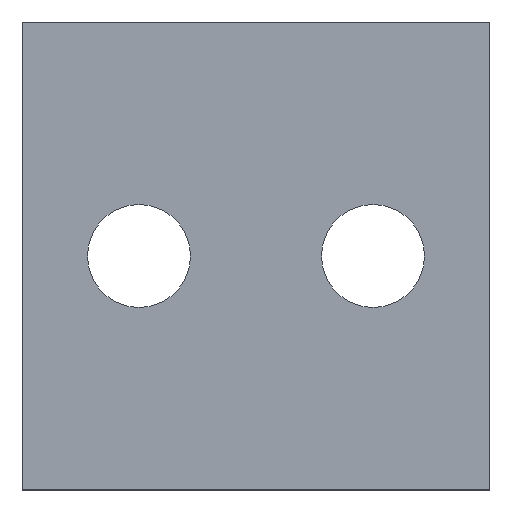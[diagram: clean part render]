
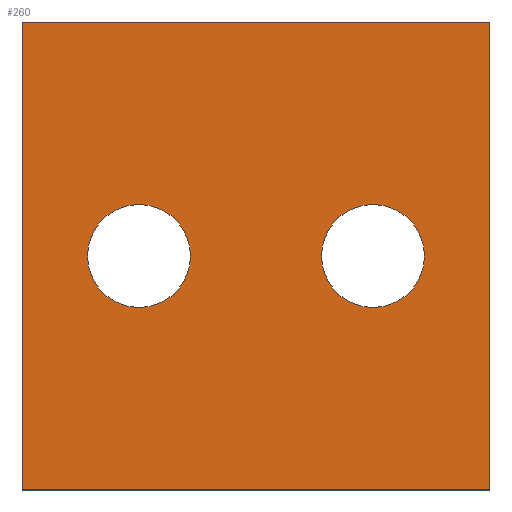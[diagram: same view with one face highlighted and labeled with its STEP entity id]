
A CAD part, top view. The second image highlights one B-rep face of the part: STEP entity #260.
In plain terms, the highlighted planar face has unit normal (0, 0, 1).
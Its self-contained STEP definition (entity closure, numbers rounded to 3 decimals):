
#30 = EDGE_LOOP ( 'NONE', ( #301, #314 ) ) ;
#31 = EDGE_LOOP ( 'NONE', ( #317, #322 ) ) ;
#34 = EDGE_LOOP ( 'NONE', ( #323, #306, #315, #316 ) ) ;
#79 = FACE_OUTER_BOUND ( 'NONE', #34, .T. ) ;
#82 = DIRECTION ( 'NONE',  ( 0., 0., 1. ) ) ;
#86 = FACE_BOUND ( 'NONE', #31, .T. ) ;
#87 = CARTESIAN_POINT ( 'NONE',  ( 500., -500., 10. ) ) ;
#88 = FACE_BOUND ( 'NONE', #30, .T. ) ;
#89 = PLANE ( 'NONE',  #337 ) ;
#90 = DIRECTION ( 'NONE',  ( 1., 0., 0. ) ) ;
#99 = CARTESIAN_POINT ( 'NONE',  ( 250., 0., 10. ) ) ;
#100 = DIRECTION ( 'NONE',  ( 0., 0., 1. ) ) ;
#101 = DIRECTION ( 'NONE',  ( 1., 0., 0. ) ) ;
#107 = CARTESIAN_POINT ( 'NONE',  ( 500., 500., 10. ) ) ;
#110 = LINE ( 'NONE', #107, #212 ) ;
#115 = DIRECTION ( 'NONE',  ( 0., 1., 0. ) ) ;
#131 = LINE ( 'NONE', #132, #219 ) ;
#132 = CARTESIAN_POINT ( 'NONE',  ( -500., -500., 10. ) ) ;
#133 = DIRECTION ( 'NONE',  ( 1., 0., 0. ) ) ;
#136 = CARTESIAN_POINT ( 'NONE',  ( -250., 0., 10. ) ) ;
#137 = DIRECTION ( 'NONE',  ( 0., 0., 1. ) ) ;
#138 = DIRECTION ( 'NONE',  ( 1., 0., 0. ) ) ;
#148 = LINE ( 'NONE', #149, #226 ) ;
#149 = CARTESIAN_POINT ( 'NONE',  ( -500., 500., 10. ) ) ;
#150 = DIRECTION ( 'NONE',  ( -1., 0., 0. ) ) ;
#151 = LINE ( 'NONE', #152, #227 ) ;
#152 = CARTESIAN_POINT ( 'NONE',  ( -500., 500., 10. ) ) ;
#153 = DIRECTION ( 'NONE',  ( 0., -1., 0. ) ) ;
#158 = CARTESIAN_POINT ( 'NONE',  ( -500., -500., 10. ) ) ;
#159 = CARTESIAN_POINT ( 'NONE',  ( 250., 0., 10. ) ) ;
#160 = DIRECTION ( 'NONE',  ( 0., 0., 1. ) ) ;
#161 = DIRECTION ( 'NONE',  ( 1., 0., 0. ) ) ;
#164 = CARTESIAN_POINT ( 'NONE',  ( -250., 0., 10. ) ) ;
#165 = DIRECTION ( 'NONE',  ( 0., 0., 1. ) ) ;
#166 = DIRECTION ( 'NONE',  ( 1., 0., 0. ) ) ;
#174 = CARTESIAN_POINT ( 'NONE',  ( 500., 500., 10. ) ) ;
#176 = CARTESIAN_POINT ( 'NONE',  ( -360., 0., 10. ) ) ;
#178 = CARTESIAN_POINT ( 'NONE',  ( -500., 500., 10. ) ) ;
#180 = CARTESIAN_POINT ( 'NONE',  ( 140., 0., 10. ) ) ;
#181 = CARTESIAN_POINT ( 'NONE',  ( 500., -500., 10. ) ) ;
#183 = CARTESIAN_POINT ( 'NONE',  ( -140., 0., 10. ) ) ;
#186 = CARTESIAN_POINT ( 'NONE',  ( 360., 0., 10. ) ) ;
#212 = VECTOR ( 'NONE', #115, 1000. ) ;
#219 = VECTOR ( 'NONE', #133, 1000. ) ;
#220 = CIRCLE ( 'NONE', #222, 110. ) ;
#222 = AXIS2_PLACEMENT_3D ( 'NONE', #136, #137, #138 ) ;
#226 = VECTOR ( 'NONE', #150, 1000. ) ;
#227 = VECTOR ( 'NONE', #153, 1000. ) ;
#229 = CIRCLE ( 'NONE', #231, 110. ) ;
#230 = CIRCLE ( 'NONE', #232, 110. ) ;
#231 = AXIS2_PLACEMENT_3D ( 'NONE', #159, #160, #161 ) ;
#232 = AXIS2_PLACEMENT_3D ( 'NONE', #164, #165, #166 ) ;
#260 = ADVANCED_FACE ( 'NONE', ( #86, #79, #88 ), #89, .T. ) ;
#263 = EDGE_CURVE ( 'NONE', #328, #326, #292, .T. ) ;
#268 = EDGE_CURVE ( 'NONE', #320, #307, #110, .T. ) ;
#274 = EDGE_CURVE ( 'NONE', #296, #320, #131, .T. ) ;
#275 = EDGE_CURVE ( 'NONE', #298, #329, #220, .T. ) ;
#280 = EDGE_CURVE ( 'NONE', #307, #308, #148, .T. ) ;
#281 = EDGE_CURVE ( 'NONE', #308, #296, #151, .T. ) ;
#283 = EDGE_CURVE ( 'NONE', #326, #328, #229, .T. ) ;
#284 = EDGE_CURVE ( 'NONE', #329, #298, #230, .T. ) ;
#288 = AXIS2_PLACEMENT_3D ( 'NONE', #99, #100, #101 ) ;
#292 = CIRCLE ( 'NONE', #288, 110. ) ;
#296 = VERTEX_POINT ( 'NONE', #158 ) ;
#298 = VERTEX_POINT ( 'NONE', #176 ) ;
#301 = ORIENTED_EDGE ( 'NONE', *, *, #275, .F. ) ;
#306 = ORIENTED_EDGE ( 'NONE', *, *, #280, .T. ) ;
#307 = VERTEX_POINT ( 'NONE', #174 ) ;
#308 = VERTEX_POINT ( 'NONE', #178 ) ;
#314 = ORIENTED_EDGE ( 'NONE', *, *, #284, .F. ) ;
#315 = ORIENTED_EDGE ( 'NONE', *, *, #281, .T. ) ;
#316 = ORIENTED_EDGE ( 'NONE', *, *, #274, .T. ) ;
#317 = ORIENTED_EDGE ( 'NONE', *, *, #283, .F. ) ;
#320 = VERTEX_POINT ( 'NONE', #181 ) ;
#322 = ORIENTED_EDGE ( 'NONE', *, *, #263, .F. ) ;
#323 = ORIENTED_EDGE ( 'NONE', *, *, #268, .T. ) ;
#326 = VERTEX_POINT ( 'NONE', #180 ) ;
#328 = VERTEX_POINT ( 'NONE', #186 ) ;
#329 = VERTEX_POINT ( 'NONE', #183 ) ;
#337 = AXIS2_PLACEMENT_3D ( 'NONE', #87, #82, #90 ) ;
